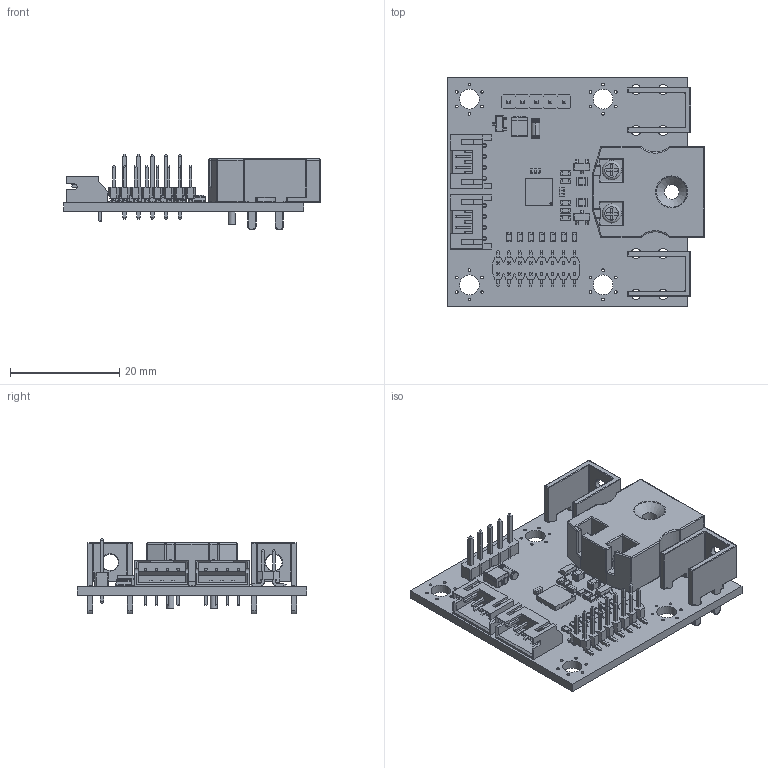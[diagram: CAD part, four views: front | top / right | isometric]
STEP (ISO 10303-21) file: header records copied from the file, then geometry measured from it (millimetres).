
FILE_DESCRIPTION(('FreeCAD Model'),'2;1');
FILE_NAME('Open CASCADE Shape Model','2026-04-23T13:41:16',(''),(''), 'Open CASCADE STEP processor 7.8','FreeCAD','Unknown');
FILE_SCHEMA(('AP242_MANAGED_MODEL_BASED_3D_ENGINEERING_MIM_LF. {1 0 10303 442 1 1 4 }'));
Length unit declared in the file: millimetre
Products named in the file (101): PCB; Board; U1; MCP9600-E_MX023; MCP9600-E_MX; MCP9600-E_MX001; MCP9600-E_MX002; MCP9600-E_MX003; MCP9600-E_MX004; MCP9600-E_MX005; MCP9600-E_MX006; MCP9600-E_MX007; MCP9600-E_MX008; MCP9600-E_MX009; MCP9600-E_MX010; MCP9600-E_MX011; MCP9600-E_MX012; MCP9600-E_MX013; MCP9600-E_MX014; MCP9600-E_MX015; MCP9600-E_MX016; MCP9600-E_MX017; MCP9600-E_MX018; MCP9600-E_MX019; MCP9600-E_MX020; MCP9600-E_MX021; MCP9600-E_MX022; R14; MCR03; R13; MCR004; R12; MCR005; R11; MCR006; R10; MCR007; R9; MCR008; R8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
Assembly tree (100 placements, depth 4):
  PCB
    Board
    U1
      MCP9600-E_MX023
        MCP9600-E_MX
        MCP9600-E_MX001
        MCP9600-E_MX002
        MCP9600-E_MX003
        MCP9600-E_MX004
        MCP9600-E_MX005
        MCP9600-E_MX006
        MCP9600-E_MX007
        MCP9600-E_MX008
        MCP9600-E_MX009
        MCP9600-E_MX010
        MCP9600-E_MX011
        MCP9600-E_MX012
        MCP9600-E_MX013
        MCP9600-E_MX014
        MCP9600-E_MX015
        MCP9600-E_MX016
        MCP9600-E_MX017
        MCP9600-E_MX018
        MCP9600-E_MX019
        MCP9600-E_MX020
        MCP9600-E_MX021
        MCP9600-E_MX022
    R14
      MCR03
    R13
      MCR004
    R12
      MCR005
    R11
      MCR006
    R10
      MCR007
    R9
      MCR008
    R8
      MCR009
    R5
      MCR010
    R4
      MCR011
    R3
      MCR012
    R2
      MCR013
    R1
      MCR014
    Q1
      FDN306P
    L2
      GRM21B
    L1
      GRM21B001
    J7
      7781-Body
    J6
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Bounding box: 47.05 x 42 x 13.9 mm (x, y, z)
Volume: 6244.2 mm3; surface area: 9040 mm2
Topology: 68 solids, 68 shells, 3118 faces, 7619 edges, 4544 vertices
Faces by surface type: plane 1991, cylinder 755, torus 210, sphere 124, bspline 36, cone 2
Full cylindrical faces by diameter (mm): 0.5 x24, 0.8 x8, 1.02 x5, 1.3 x2, 1.5 x2, 1.85 x8, 2.7 x1, 3 x3, 3.5 x2, 3.6 x4
Entity records: 208752 total; most frequent: CARTESIAN_POINT 43718, DIRECTION 29656, LINE 19449, VECTOR 19449, ORIENTED_EDGE 14990, PCURVE 14990, DEFINITIONAL_REPRESENTATION 14990, EDGE_CURVE 7495
